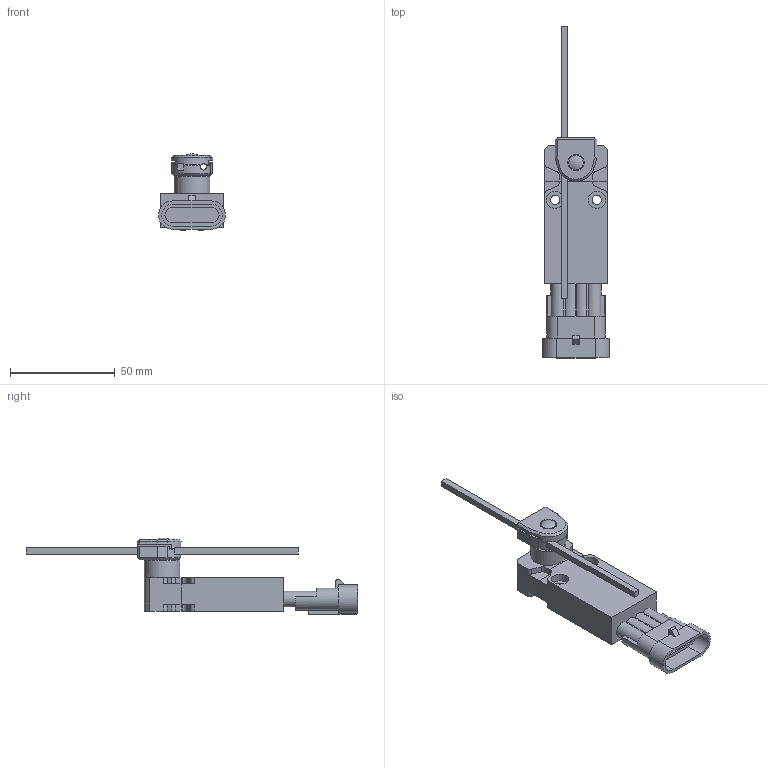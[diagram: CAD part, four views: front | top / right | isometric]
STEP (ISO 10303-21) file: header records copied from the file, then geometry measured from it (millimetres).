
FILE_DESCRIPTION(/* description */ (''),/* implementation_level */ '2;1');
FILE_NAME(/* name */ 'C:\Users\servizio.tecnico\Desktop\CADENAS\3D\EP1_STP\STP_EP1_G75A.stp',/* time_stamp */ '2017-09-04T10:51:38+02:00',/* author */ ('servizio.tecnico'),/* organization */ (''),/* preprocessor_version */ 'ST-DEVELOPER v16.1',/* originating_system */ 'Autodesk Inventor 2016',/* authorisation */ '');
FILE_SCHEMA (('AUTOMOTIVE_DESIGN { 1 0 10303 214 3 1 1 }'));
Length unit declared in the file: millimetre
Products named in the file (3): Product; EP1G75-A; BASE ASSI 
Assembly tree (2 placements, depth 3):
  BASE ASSI 
    EP1G75-A
      Product
Bounding box: 32 x 158.5 x 36.53 mm (x, y, z)
Volume: 41351.5 mm3; surface area: 17263.4 mm2
Topology: 4 solids, 4 shells, 228 faces, 599 edges, 392 vertices
Faces by surface type: plane 165, cylinder 59, cone 2, sphere 1, torus 1
Full cylindrical faces by diameter (mm): 4.4 x2, 7 x1, 8 x1, 8.2 x4, 11 x1, 17 x1
Entity records: 7124 total; most frequent: CARTESIAN_POINT 1239, DIRECTION 1184, ORIENTED_EDGE 1172, EDGE_CURVE 586, LINE 450, VECTOR 450, VERTEX_POINT 390, AXIS2_PLACEMENT_3D 367
